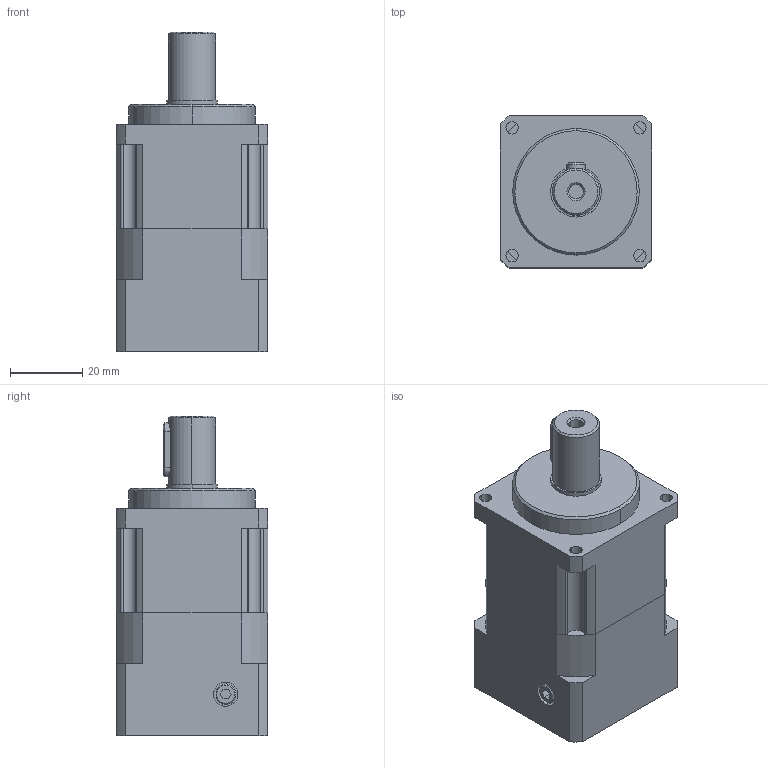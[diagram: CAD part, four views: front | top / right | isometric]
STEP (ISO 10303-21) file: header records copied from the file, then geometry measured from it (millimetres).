
FILE_DESCRIPTION((''),'2;1');
FILE_NAME('01-0_ASM','2017-04-22T',('Administrator'),(''),'PRO/ENGINEER BY PARAMETRIC TECHNOLOGY CORPORATION, 2010280','PRO/ENGINEER BY PARAMETRIC TECHNOLOGY CORPORATION, 2010280','');
FILE_SCHEMA(('CONFIG_CONTROL_DESIGN'));
Length unit declared in the file: millimetre
Products named in the file (10): 01-1; 01-2; 01-3; 01-04; 01-06; 01-07; 01-08_ASM; 01-05; 01-08; 01-0_ASM
Assembly tree (13 placements, depth 3):
  01-0_ASM
    01-1
    01-2
    01-3
    01-04  x2
    01-08_ASM
      01-06
      01-07
    01-05
    01-08  x4
Bounding box: 42 x 42 x 88.4 mm (x, y, z)
Volume: 101987.7 mm3; surface area: 27266.9 mm2
Topology: 12 solids, 12 shells, 264 faces, 618 edges, 404 vertices
Faces by surface type: plane 127, cylinder 107, cone 30
Entity records: 6641 total; most frequent: CARTESIAN_POINT 1250, DIRECTION 1187, ORIENTED_EDGE 1008, EDGE_CURVE 504, AXIS2_PLACEMENT_3D 462, VERTEX_POINT 330, VECTOR 263, LINE 263
